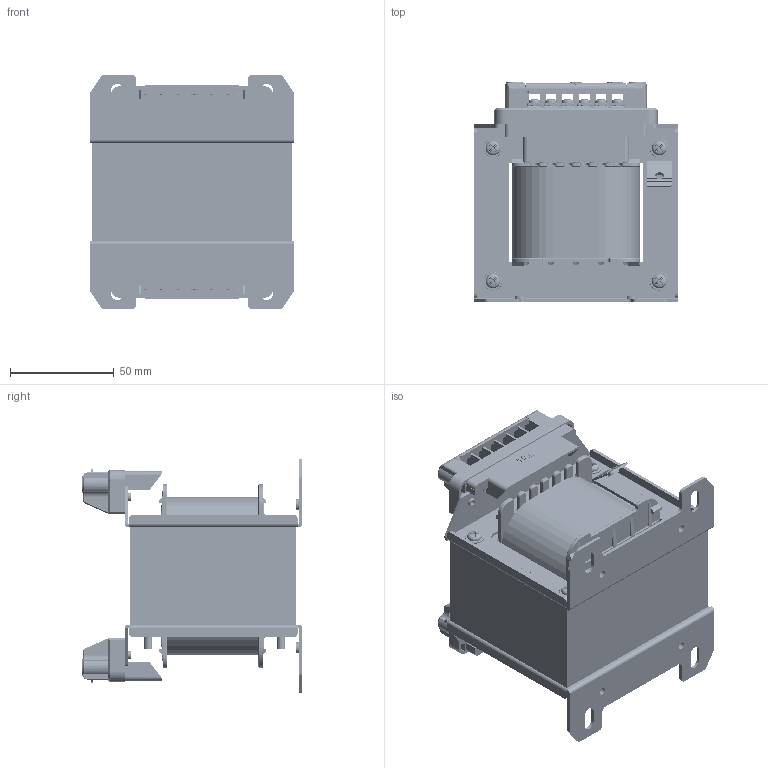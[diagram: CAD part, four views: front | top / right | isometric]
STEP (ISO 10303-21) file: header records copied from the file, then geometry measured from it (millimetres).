
FILE_DESCRIPTION (( 'STEP AP214' ), '1' );
FILE_NAME ('UL TRANS Ass''Y_1P-100VA_rev.0.STEP', '2018-10-16T10:14:22', ( 'Registered User' ), ( 'Microsoft Corporation' ), 'SwSTEP 2.0', 'SolidWorks 2018', '' );
FILE_SCHEMA (( 'AUTOMOTIVE_DESIGN' ));
Length unit declared in the file: millimetre
Products named in the file (24): 762 欽濠渠_TM COVER; M3x5(6.8x6.8); pan cross head_ks_KS 1023 PC- M3 x 5-N; 餌陝WASHER(6.8x6.8); TGI-00002_寰瞪 COVER_762 欽濠渠_REV03; 762 欽濠渠_TERMINAL; 762 BODY; TGI-096CV_R01_遢醴幗 96; UL TRANS 1P 100VA BARRIER_P01; TRANS 150VA COIL_P00; N-10mm蕾雖欽濠; TRANS 150VA EI CORE_P00; 12mm蕾雖欽濠; TRANS BOBBIN(96-47)_P02_BARRIER 瞳辨_P00; M4-FLANGE NUT_P00; WBS)4x60_P00; UL TRANS Ass''Y_1P-100VA_rev.0; 欽濠渠_762 ASS`Y_REV3; 欽濠渠 762_PCB ASS`Y; LED(赤5); 盪о; 棻檜螃萄; 欽濠渠 762_PCB
Assembly tree (58 placements, depth 4):
  UL TRANS Ass''Y_1P-100VA_rev.0
    TRANS BOBBIN(96-47)_P02_BARRIER 瞳辨_P00
    TRANS 150VA EI CORE_P00
    TRANS 150VA COIL_P00
    TGI-096CV_R01_遢醴幗 96  x2
    欽濠渠_762 ASS`Y_REV3
      762 BODY
      762 欽濠渠_TERMINAL  x6
      TGI-00002_寰瞪 COVER_762 欽濠渠_REV03
      M3x5(6.8x6.8)  x6
        餌陝WASHER(6.8x6.8)
        pan cross head_ks_KS 1023 PC- M3 x 5-N
      762 欽濠渠_TM COVER
    欽濠渠_762 ASS`Y_REV3
      762 BODY
      欽濠渠 762_PCB ASS`Y
        欽濠渠 762_PCB
        棻檜螃萄
        盪о
        LED(赤5)
      762 欽濠渠_TERMINAL  x6
      TGI-00002_寰瞪 COVER_762 欽濠渠_REV03
      M3x5(6.8x6.8)  x6
        餌陝WASHER(6.8x6.8)
        pan cross head_ks_KS 1023 PC- M3 x 5-N
      762 欽濠渠_TM COVER
    WBS)4x60_P00  x4
    M4-FLANGE NUT_P00  x4
    12mm蕾雖欽濠
    N-10mm蕾雖欽濠
    UL TRANS 1P 100VA BARRIER_P01  x4
Bounding box: 98.4 x 105.9 x 113 mm (x, y, z)
Volume: 461963.9 mm3; surface area: 198848.4 mm2
Topology: 64 solids, 65 shells, 8332 faces, 21885 edges, 14024 vertices
Faces by surface type: plane 5176, cylinder 1823, bspline 792, cone 260, torus 240, sphere 41
Entity records: 120538 total; most frequent: CARTESIAN_POINT 36992, ORIENTED_EDGE 18086, DIRECTION 15495, EDGE_CURVE 9043, VECTOR 6671, LINE 6671, VERTEX_POINT 5861, AXIS2_PLACEMENT_3D 4412
